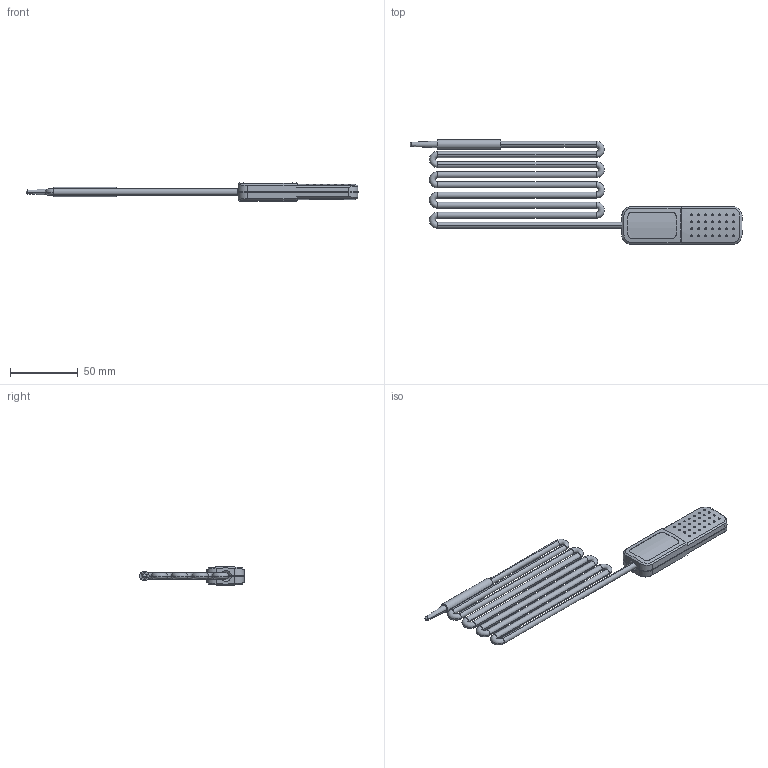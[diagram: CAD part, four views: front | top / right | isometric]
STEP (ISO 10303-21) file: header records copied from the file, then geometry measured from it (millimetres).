
FILE_DESCRIPTION (( 'STEP AP214' ), '1' );
FILE_NAME ('VCP-TRH450.STEP', '2024-05-18T12:11:33', ( '' ), ( '' ), 'SwSTEP 2.0', 'SolidWorks 2021', '' );
FILE_SCHEMA (( 'AUTOMOTIVE_DESIGN' ));
Length unit declared in the file: millimetre
Products named in the file (1): VCP-TRH450
Bounding box: 245.76 x 77.49 x 14 mm (x, y, z)
Volume: 48737.4 mm3; surface area: 25324.4 mm2
Topology: 3 solids, 3 shells, 854 faces, 2192 edges, 1443 vertices
Faces by surface type: bspline 354, plane 328, cylinder 146, torus 20, cone 6
Entity records: 42385 total; most frequent: CARTESIAN_POINT 24177, ORIENTED_EDGE 4380, DIRECTION 2674, EDGE_CURVE 2190, VERTEX_POINT 1443, LINE 972, VECTOR 972, EDGE_LOOP 955
